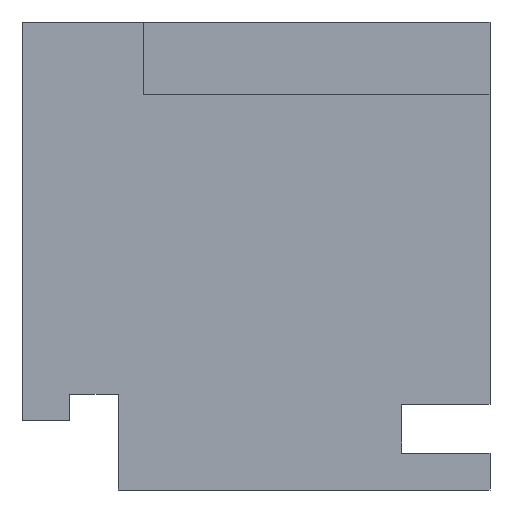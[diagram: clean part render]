
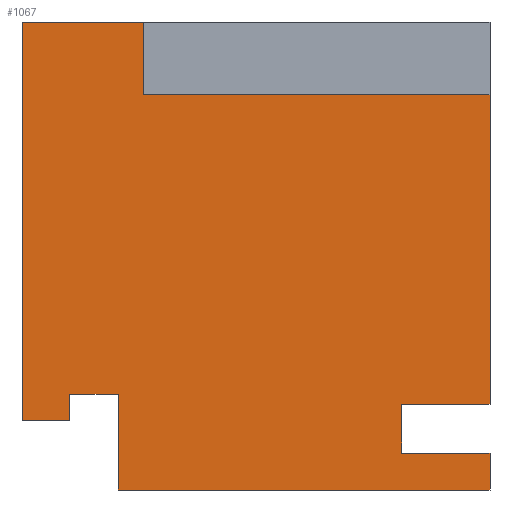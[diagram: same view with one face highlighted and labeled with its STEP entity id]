
A CAD part, front view. The second image highlights one B-rep face of the part: STEP entity #1067.
In plain terms, the highlighted planar face has unit normal (0, -1, 0).
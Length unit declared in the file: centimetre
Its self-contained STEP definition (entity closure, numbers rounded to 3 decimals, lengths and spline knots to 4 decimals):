
#5 = CARTESIAN_POINT ( 'NONE',  ( 0., 0., 1000. ) ) ;
#67 = LINE ( 'NONE', #629, #690 ) ;
#96 = LINE ( 'NONE', #522, #831 ) ;
#125 = ORIENTED_EDGE ( 'NONE', *, *, #1078, .T. ) ;
#163 = CARTESIAN_POINT ( 'NONE',  ( 810.9797, 0., 78.6509 ) ) ;
#172 = EDGE_CURVE ( 'NONE', #1313, #338, #1094, .T. ) ;
#173 = VERTEX_POINT ( 'NONE', #1083 ) ;
#189 = EDGE_CURVE ( 'NONE', #338, #927, #405, .T. ) ;
#198 = VERTEX_POINT ( 'NONE', #1392 ) ;
#209 = DIRECTION ( 'NONE',  ( 0., 0., -1. ) ) ;
#250 = VECTOR ( 'NONE', #1282, 100. ) ;
#252 = CARTESIAN_POINT ( 'NONE',  ( 0., 0., 1000. ) ) ;
#273 = EDGE_CURVE ( 'NONE', #173, #921, #1009, .T. ) ;
#282 = VECTOR ( 'NONE', #1661, 100. ) ;
#284 = EDGE_CURVE ( 'NONE', #949, #602, #429, .T. ) ;
#308 = CARTESIAN_POINT ( 'NONE',  ( 102.3022, 0., 205.0021 ) ) ;
#310 = DIRECTION ( 'NONE',  ( 0., 0., -1. ) ) ;
#312 = VERTEX_POINT ( 'NONE', #1789 ) ;
#335 = LINE ( 'NONE', #1578, #1271 ) ;
#336 = DIRECTION ( 'NONE',  ( -1., 0., 0. ) ) ;
#338 = VERTEX_POINT ( 'NONE', #344 ) ;
#342 = LINE ( 'NONE', #929, #1766 ) ;
#344 = CARTESIAN_POINT ( 'NONE',  ( 259.8721, 0., 1000. ) ) ;
#372 = ORIENTED_EDGE ( 'NONE', *, *, #1364, .F. ) ;
#399 = CARTESIAN_POINT ( 'NONE',  ( 0., 0., 147.878 ) ) ;
#401 = VERTEX_POINT ( 'NONE', #1720 ) ;
#405 = LINE ( 'NONE', #1109, #1144 ) ;
#429 = LINE ( 'NONE', #709, #1383 ) ;
#437 = CARTESIAN_POINT ( 'NONE',  ( 205.3527, 0., 205.0021 ) ) ;
#444 = CARTESIAN_POINT ( 'NONE',  ( 205.3527, 0., 0. ) ) ;
#457 = ORIENTED_EDGE ( 'NONE', *, *, #1111, .T. ) ;
#480 = ORIENTED_EDGE ( 'NONE', *, *, #1003, .F. ) ;
#491 = DIRECTION ( 'NONE',  ( 1., 0., 0. ) ) ;
#493 = CARTESIAN_POINT ( 'NONE',  ( 0., 0., 1000. ) ) ;
#495 = CARTESIAN_POINT ( 'NONE',  ( 810.9797, 0., 183.0312 ) ) ;
#516 = CARTESIAN_POINT ( 'NONE',  ( 0., 0., 1000. ) ) ;
#522 = CARTESIAN_POINT ( 'NONE',  ( 0., 0., 147.878 ) ) ;
#533 = DIRECTION ( 'NONE',  ( 1., 0., 0. ) ) ;
#569 = EDGE_CURVE ( 'NONE', #901, #1316, #96, .T. ) ;
#573 = CARTESIAN_POINT ( 'NONE',  ( 1000., 0., 1000. ) ) ;
#591 = LINE ( 'NONE', #163, #657 ) ;
#593 = ORIENTED_EDGE ( 'NONE', *, *, #608, .F. ) ;
#602 = VERTEX_POINT ( 'NONE', #1600 ) ;
#608 = EDGE_CURVE ( 'NONE', #401, #1310, #896, .T. ) ;
#612 = ORIENTED_EDGE ( 'NONE', *, *, #284, .T. ) ;
#629 = CARTESIAN_POINT ( 'NONE',  ( 259.8721, 0., 844.5436 ) ) ;
#632 = DIRECTION ( 'NONE',  ( 0., 0., 1. ) ) ;
#657 = VECTOR ( 'NONE', #310, 100. ) ;
#662 = CARTESIAN_POINT ( 'NONE',  ( 205.3527, 0., 90.7539 ) ) ;
#665 = ORIENTED_EDGE ( 'NONE', *, *, #1679, .F. ) ;
#690 = VECTOR ( 'NONE', #491, 100. ) ;
#709 = CARTESIAN_POINT ( 'NONE',  ( 0., 0., 0. ) ) ;
#714 = ORIENTED_EDGE ( 'NONE', *, *, #934, .F. ) ;
#724 = ORIENTED_EDGE ( 'NONE', *, *, #1494, .F. ) ;
#766 = DIRECTION ( 'NONE',  ( 0., 1., 0. ) ) ;
#831 = VECTOR ( 'NONE', #1367, 100. ) ;
#896 = LINE ( 'NONE', #495, #1053 ) ;
#900 = DIRECTION ( 'NONE',  ( 0., 0., 1. ) ) ;
#901 = VERTEX_POINT ( 'NONE', #399 ) ;
#914 = VECTOR ( 'NONE', #533, 100. ) ;
#921 = VERTEX_POINT ( 'NONE', #437 ) ;
#922 = FACE_OUTER_BOUND ( 'NONE', #1101, .T. ) ;
#927 = VERTEX_POINT ( 'NONE', #1283 ) ;
#929 = CARTESIAN_POINT ( 'NONE',  ( 102.3022, 0., 90.7539 ) ) ;
#934 = EDGE_CURVE ( 'NONE', #999, #198, #335, .T. ) ;
#941 = CARTESIAN_POINT ( 'NONE',  ( 810.9797, 0., 183.0312 ) ) ;
#949 = VERTEX_POINT ( 'NONE', #444 ) ;
#957 = CARTESIAN_POINT ( 'NONE',  ( 102.3022, 0., 147.878 ) ) ;
#996 = DIRECTION ( 'NONE',  ( 1., 0., 0. ) ) ;
#999 = VERTEX_POINT ( 'NONE', #1552 ) ;
#1003 = EDGE_CURVE ( 'NONE', #1310, #999, #591, .T. ) ;
#1009 = LINE ( 'NONE', #308, #1136 ) ;
#1053 = VECTOR ( 'NONE', #336, 100. ) ;
#1054 = LINE ( 'NONE', #493, #1763 ) ;
#1067 = ADVANCED_FACE ( 'NONE', ( #922 ), #1490, .F. ) ;
#1078 = EDGE_CURVE ( 'NONE', #921, #949, #1764, .T. ) ;
#1083 = CARTESIAN_POINT ( 'NONE',  ( 102.3022, 0., 205.0021 ) ) ;
#1094 = LINE ( 'NONE', #252, #914 ) ;
#1095 = LINE ( 'NONE', #1656, #282 ) ;
#1101 = EDGE_LOOP ( 'NONE', ( #372, #665, #1210, #1281, #457, #1743, #1391, #1183, #125, #612, #724, #714, #480, #593 ) ) ;
#1109 = CARTESIAN_POINT ( 'NONE',  ( 259.8721, 0., 844.5436 ) ) ;
#1111 = EDGE_CURVE ( 'NONE', #1313, #901, #1054, .T. ) ;
#1112 = VECTOR ( 'NONE', #1476, 100. ) ;
#1136 = VECTOR ( 'NONE', #1150, 100. ) ;
#1144 = VECTOR ( 'NONE', #1774, 100. ) ;
#1150 = DIRECTION ( 'NONE',  ( 1., 0., 0. ) ) ;
#1183 = ORIENTED_EDGE ( 'NONE', *, *, #273, .T. ) ;
#1210 = ORIENTED_EDGE ( 'NONE', *, *, #189, .F. ) ;
#1262 = AXIS2_PLACEMENT_3D ( 'NONE', #516, #766, #632 ) ;
#1267 = DIRECTION ( 'NONE',  ( 1., 0., 0. ) ) ;
#1271 = VECTOR ( 'NONE', #996, 100. ) ;
#1281 = ORIENTED_EDGE ( 'NONE', *, *, #172, .F. ) ;
#1282 = DIRECTION ( 'NONE',  ( 0., 0., -1. ) ) ;
#1283 = CARTESIAN_POINT ( 'NONE',  ( 259.8721, 0., 844.5436 ) ) ;
#1310 = VERTEX_POINT ( 'NONE', #941 ) ;
#1313 = VERTEX_POINT ( 'NONE', #5 ) ;
#1316 = VERTEX_POINT ( 'NONE', #957 ) ;
#1364 = EDGE_CURVE ( 'NONE', #312, #401, #1095, .T. ) ;
#1367 = DIRECTION ( 'NONE',  ( 1., 0., 0. ) ) ;
#1383 = VECTOR ( 'NONE', #1267, 100. ) ;
#1391 = ORIENTED_EDGE ( 'NONE', *, *, #1662, .T. ) ;
#1392 = CARTESIAN_POINT ( 'NONE',  ( 1000., 0., 78.6509 ) ) ;
#1406 = LINE ( 'NONE', #573, #250 ) ;
#1476 = DIRECTION ( 'NONE',  ( 0., 0., -1. ) ) ;
#1490 = PLANE ( 'NONE',  #1262 ) ;
#1494 = EDGE_CURVE ( 'NONE', #198, #602, #1406, .T. ) ;
#1552 = CARTESIAN_POINT ( 'NONE',  ( 810.9797, 0., 78.6509 ) ) ;
#1578 = CARTESIAN_POINT ( 'NONE',  ( 810.9797, 0., 78.6509 ) ) ;
#1600 = CARTESIAN_POINT ( 'NONE',  ( 1000., 0., 0. ) ) ;
#1656 = CARTESIAN_POINT ( 'NONE',  ( 1000., 0., 1000. ) ) ;
#1661 = DIRECTION ( 'NONE',  ( 0., 0., -1. ) ) ;
#1662 = EDGE_CURVE ( 'NONE', #1316, #173, #342, .T. ) ;
#1679 = EDGE_CURVE ( 'NONE', #927, #312, #67, .T. ) ;
#1720 = CARTESIAN_POINT ( 'NONE',  ( 1000., 0., 183.0312 ) ) ;
#1743 = ORIENTED_EDGE ( 'NONE', *, *, #569, .T. ) ;
#1763 = VECTOR ( 'NONE', #209, 100. ) ;
#1764 = LINE ( 'NONE', #662, #1112 ) ;
#1766 = VECTOR ( 'NONE', #900, 100. ) ;
#1774 = DIRECTION ( 'NONE',  ( 0., 0., -1. ) ) ;
#1789 = CARTESIAN_POINT ( 'NONE',  ( 1000., 0., 844.5436 ) ) ;
